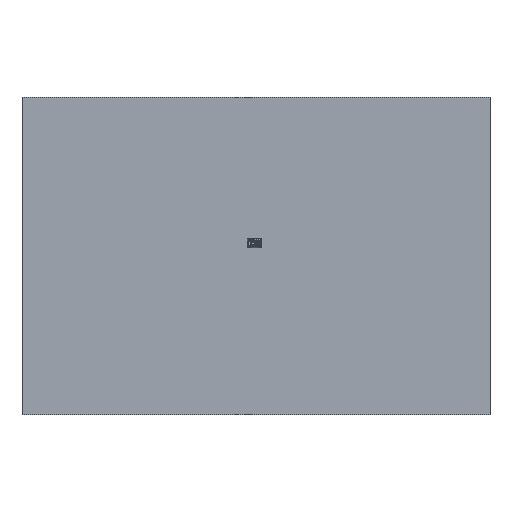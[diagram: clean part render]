
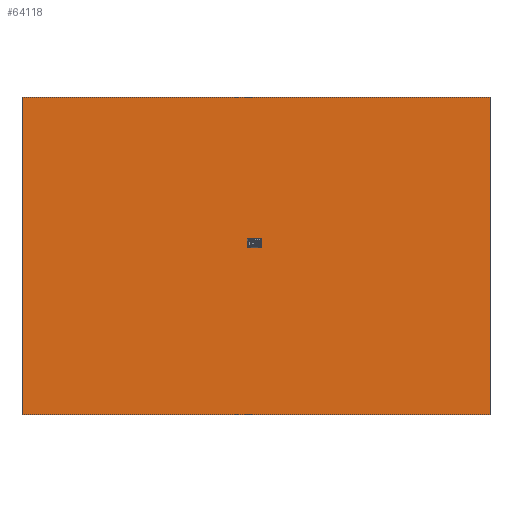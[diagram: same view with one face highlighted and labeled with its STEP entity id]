
A CAD part, top view. The second image highlights one B-rep face of the part: STEP entity #64118.
In plain terms, the highlighted planar face has unit normal (0, 0, 1).
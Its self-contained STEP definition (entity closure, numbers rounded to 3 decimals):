
#7460=FACE_OUTER_BOUND('',#11290,.T.);
#11290=EDGE_LOOP('',(#58205,#58206,#58207,#58208));
#18163=LINE('',#115242,#25039);
#18164=LINE('',#115244,#25040);
#18165=LINE('',#115246,#25041);
#18166=LINE('',#115247,#25042);
#25039=VECTOR('',#87342,10.);
#25040=VECTOR('',#87343,10.);
#25041=VECTOR('',#87344,10.);
#25042=VECTOR('',#87345,10.);
#30960=VERTEX_POINT('',#115240);
#30961=VERTEX_POINT('',#115241);
#30962=VERTEX_POINT('',#115243);
#30963=VERTEX_POINT('',#115245);
#40043=EDGE_CURVE('',#30960,#30961,#18163,.T.);
#40044=EDGE_CURVE('',#30961,#30962,#18164,.T.);
#40045=EDGE_CURVE('',#30962,#30963,#18165,.T.);
#40046=EDGE_CURVE('',#30963,#30960,#18166,.T.);
#58205=ORIENTED_EDGE('',*,*,#40043,.T.);
#58206=ORIENTED_EDGE('',*,*,#40044,.T.);
#58207=ORIENTED_EDGE('',*,*,#40045,.T.);
#58208=ORIENTED_EDGE('',*,*,#40046,.T.);
#60665=PLANE('',#69817);
#64118=ADVANCED_FACE('',(#7460),#60665,.F.);
#69817=AXIS2_PLACEMENT_3D('',#115239,#87340,#87341);
#87340=DIRECTION('center_axis',(0.,0.,-1.));
#87341=DIRECTION('ref_axis',(0.,-1.,0.));
#87342=DIRECTION('',(1.,0.,0.));
#87343=DIRECTION('',(0.,1.,0.));
#87344=DIRECTION('',(-1.,0.,0.));
#87345=DIRECTION('',(0.,-1.,0.));
#115239=CARTESIAN_POINT('Origin',(12.748,-96.279,0.));
#115240=CARTESIAN_POINT('',(-1748.514,-1291.6,0.));
#115241=CARTESIAN_POINT('',(1774.011,-1291.6,0.));
#115242=CARTESIAN_POINT('',(12.748,-1291.6,0.));
#115243=CARTESIAN_POINT('',(1774.011,1099.041,0.));
#115244=CARTESIAN_POINT('',(1774.011,-96.279,0.));
#115245=CARTESIAN_POINT('',(-1748.514,1099.041,0.));
#115246=CARTESIAN_POINT('',(12.748,1099.041,0.));
#115247=CARTESIAN_POINT('',(-1748.514,-96.279,0.));
